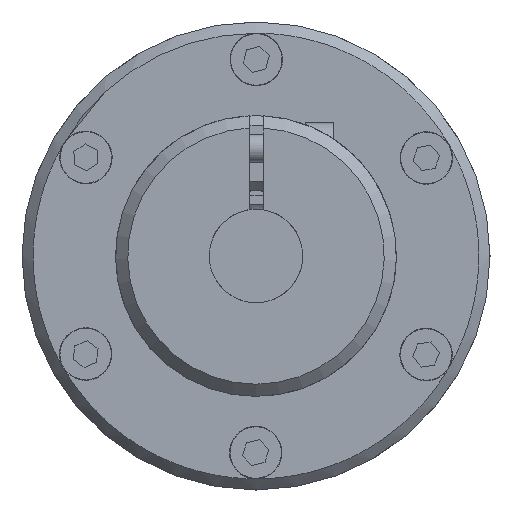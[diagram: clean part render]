
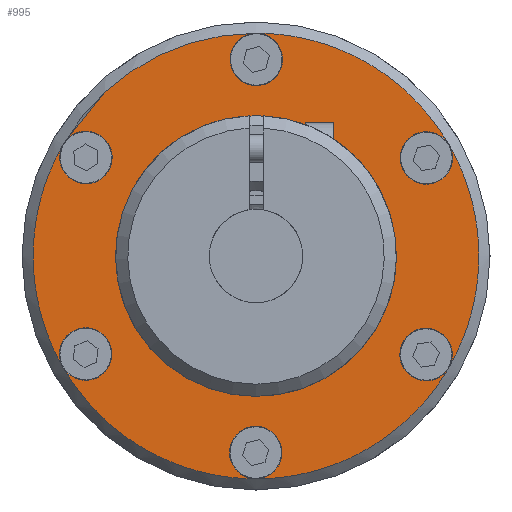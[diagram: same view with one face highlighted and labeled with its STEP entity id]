
A CAD part, left-side view. The second image highlights one B-rep face of the part: STEP entity #995.
In plain terms, the highlighted planar face has unit normal (-1, 0, 0).
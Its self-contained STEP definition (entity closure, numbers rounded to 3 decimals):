
#995 = ADVANCED_FACE( '', ( #1838, #1839 ), #1840, .F. );
#1838 = FACE_OUTER_BOUND( '', #2639, .T. );
#1839 = FACE_BOUND( '', #2640, .T. );
#1840 = PLANE( '', #2641 );
#2639 = EDGE_LOOP( '', ( #3853, #3854, #3855, #3856, #3857, #3858, #3859, #3860, #3861, #3862, #3863, #3864 ) );
#2640 = EDGE_LOOP( '', ( #3865, #3866, #3867, #3868, #3869, #3870, #3871, #3872 ) );
#2641 = AXIS2_PLACEMENT_3D( '', #3873, #3874, #3875 );
#3853 = ORIENTED_EDGE( '', *, *, #5362, .T. );
#3854 = ORIENTED_EDGE( '', *, *, #5353, .T. );
#3855 = ORIENTED_EDGE( '', *, *, #5363, .T. );
#3856 = ORIENTED_EDGE( '', *, *, #5343, .T. );
#3857 = ORIENTED_EDGE( '', *, *, #5364, .T. );
#3858 = ORIENTED_EDGE( '', *, *, #5365, .T. );
#3859 = ORIENTED_EDGE( '', *, *, #5366, .T. );
#3860 = ORIENTED_EDGE( '', *, *, #5367, .T. );
#3861 = ORIENTED_EDGE( '', *, *, #5368, .T. );
#3862 = ORIENTED_EDGE( '', *, *, #5369, .T. );
#3863 = ORIENTED_EDGE( '', *, *, #5370, .T. );
#3864 = ORIENTED_EDGE( '', *, *, #5333, .T. );
#3865 = ORIENTED_EDGE( '', *, *, #5342, .F. );
#3866 = ORIENTED_EDGE( '', *, *, #5339, .F. );
#3867 = ORIENTED_EDGE( '', *, *, #5312, .F. );
#3868 = ORIENTED_EDGE( '', *, *, #5371, .F. );
#3869 = ORIENTED_EDGE( '', *, *, #5372, .F. );
#3870 = ORIENTED_EDGE( '', *, *, #5361, .F. );
#3871 = ORIENTED_EDGE( '', *, *, #5308, .F. );
#3872 = ORIENTED_EDGE( '', *, *, #5373, .F. );
#3873 = CARTESIAN_POINT( '', ( -10., 25., 0. ) );
#3874 = DIRECTION( '', ( 1., 0., 0. ) );
#3875 = DIRECTION( '', ( 0., 1., 0. ) );
#5308 = EDGE_CURVE( '', #6036, #6038, #6039, .F. );
#5312 = EDGE_CURVE( '', #6044, #6032, #6046, .F. );
#5333 = EDGE_CURVE( '', #6081, #6081, #6082, .T. );
#5339 = EDGE_CURVE( '', #6032, #6089, #6093, .T. );
#5342 = EDGE_CURVE( '', #6089, #6095, #6098, .F. );
#5343 = EDGE_CURVE( '', #6099, #6099, #6100, .T. );
#5353 = EDGE_CURVE( '', #6119, #6119, #6120, .T. );
#5361 = EDGE_CURVE( '', #6038, #6129, #6133, .T. );
#5362 = EDGE_CURVE( '', #6081, #6119, #6134, .F. );
#5363 = EDGE_CURVE( '', #6119, #6099, #6135, .F. );
#5364 = EDGE_CURVE( '', #6099, #6136, #6137, .F. );
#5365 = EDGE_CURVE( '', #6136, #6136, #6138, .T. );
#5366 = EDGE_CURVE( '', #6136, #6139, #6140, .F. );
#5367 = EDGE_CURVE( '', #6139, #6139, #6141, .T. );
#5368 = EDGE_CURVE( '', #6139, #6142, #6143, .F. );
#5369 = EDGE_CURVE( '', #6142, #6142, #6144, .T. );
#5370 = EDGE_CURVE( '', #6142, #6081, #6145, .F. );
#5371 = EDGE_CURVE( '', #6146, #6044, #6147, .T. );
#5372 = EDGE_CURVE( '', #6129, #6146, #6148, .F. );
#5373 = EDGE_CURVE( '', #6095, #6036, #6149, .T. );
#6032 = VERTEX_POINT( '', #6941 );
#6036 = VERTEX_POINT( '', #6946 );
#6038 = VERTEX_POINT( '', #6949 );
#6039 = CIRCLE( '', #6950, 7. );
#6044 = VERTEX_POINT( '', #6956 );
#6046 = CIRCLE( '', #6959, 7. );
#6081 = VERTEX_POINT( '', #6994 );
#6082 = CIRCLE( '', #6995, 2.8 );
#6089 = VERTEX_POINT( '', #7002 );
#6093 = CIRCLE( '', #7007, 16.5 );
#6095 = VERTEX_POINT( '', #7009 );
#6098 = CIRCLE( '', #7013, 15. );
#6099 = VERTEX_POINT( '', #7014 );
#6100 = CIRCLE( '', #7015, 2.8 );
#6119 = VERTEX_POINT( '', #7034 );
#6120 = CIRCLE( '', #7035, 2.8 );
#6129 = VERTEX_POINT( '', #7050 );
#6133 = CIRCLE( '', #7055, 16.5 );
#6134 = CIRCLE( '', #7056, 23.8 );
#6135 = CIRCLE( '', #7057, 23.8 );
#6136 = VERTEX_POINT( '', #7058 );
#6137 = CIRCLE( '', #7059, 23.8 );
#6138 = CIRCLE( '', #7060, 2.8 );
#6139 = VERTEX_POINT( '', #7061 );
#6140 = CIRCLE( '', #7062, 23.8 );
#6141 = CIRCLE( '', #7063, 2.8 );
#6142 = VERTEX_POINT( '', #7064 );
#6143 = CIRCLE( '', #7065, 23.8 );
#6144 = CIRCLE( '', #7066, 2.8 );
#6145 = CIRCLE( '', #7067, 23.8 );
#6146 = VERTEX_POINT( '', #7068 );
#6147 = CIRCLE( '', #7069, 16.5 );
#6148 = CIRCLE( '', #7070, 15. );
#6149 = CIRCLE( '', #7071, 16.5 );
#6941 = CARTESIAN_POINT( '', ( -10., 1.485, -6.841 ) );
#6946 = CARTESIAN_POINT( '', ( -10., -1.485, -6.841 ) );
#6949 = CARTESIAN_POINT( '', ( -10., -1.485, 6.841 ) );
#6950 = AXIS2_PLACEMENT_3D( '', #8108, #8109, #8110 );
#6956 = CARTESIAN_POINT( '', ( -10., 1.485, 6.841 ) );
#6959 = AXIS2_PLACEMENT_3D( '', #8116, #8117, #8118 );
#6994 = CARTESIAN_POINT( '', ( -10., 0., 23.8 ) );
#6995 = AXIS2_PLACEMENT_3D( '', #8179, #8180, #8181 );
#7002 = CARTESIAN_POINT( '', ( -10., 6.818, -13.361 ) );
#7007 = AXIS2_PLACEMENT_3D( '', #8195, #8196, #8197 );
#7009 = CARTESIAN_POINT( '', ( -10., -6.818, -13.361 ) );
#7013 = AXIS2_PLACEMENT_3D( '', #8202, #8203, #8204 );
#7014 = CARTESIAN_POINT( '', ( -10., 20.611, -11.9 ) );
#7015 = AXIS2_PLACEMENT_3D( '', #8205, #8206, #8207 );
#7034 = CARTESIAN_POINT( '', ( -10., 20.611, 11.9 ) );
#7035 = AXIS2_PLACEMENT_3D( '', #8235, #8236, #8237 );
#7050 = CARTESIAN_POINT( '', ( -10., -6.818, 13.361 ) );
#7055 = AXIS2_PLACEMENT_3D( '', #8251, #8252, #8253 );
#7056 = AXIS2_PLACEMENT_3D( '', #8254, #8255, #8256 );
#7057 = AXIS2_PLACEMENT_3D( '', #8257, #8258, #8259 );
#7058 = CARTESIAN_POINT( '', ( -10., 0., -23.8 ) );
#7059 = AXIS2_PLACEMENT_3D( '', #8260, #8261, #8262 );
#7060 = AXIS2_PLACEMENT_3D( '', #8263, #8264, #8265 );
#7061 = CARTESIAN_POINT( '', ( -10., -20.611, -11.9 ) );
#7062 = AXIS2_PLACEMENT_3D( '', #8266, #8267, #8268 );
#7063 = AXIS2_PLACEMENT_3D( '', #8269, #8270, #8271 );
#7064 = CARTESIAN_POINT( '', ( -10., -20.611, 11.9 ) );
#7065 = AXIS2_PLACEMENT_3D( '', #8272, #8273, #8274 );
#7066 = AXIS2_PLACEMENT_3D( '', #8275, #8276, #8277 );
#7067 = AXIS2_PLACEMENT_3D( '', #8278, #8279, #8280 );
#7068 = CARTESIAN_POINT( '', ( -10., 6.818, 13.361 ) );
#7069 = AXIS2_PLACEMENT_3D( '', #8281, #8282, #8283 );
#7070 = AXIS2_PLACEMENT_3D( '', #8284, #8285, #8286 );
#7071 = AXIS2_PLACEMENT_3D( '', #8287, #8288, #8289 );
#8108 = CARTESIAN_POINT( '', ( -10., 0., 0. ) );
#8109 = DIRECTION( '', ( 1., 0., 0. ) );
#8110 = DIRECTION( '', ( 0., 0., -1. ) );
#8116 = CARTESIAN_POINT( '', ( -10., 0., 0. ) );
#8117 = DIRECTION( '', ( 1., 0., 0. ) );
#8118 = DIRECTION( '', ( 0., 0., -1. ) );
#8179 = CARTESIAN_POINT( '', ( -10., 0., 21. ) );
#8180 = DIRECTION( '', ( 1., 0., 0. ) );
#8181 = DIRECTION( '', ( 0., 0., -1. ) );
#8195 = CARTESIAN_POINT( '', ( -10., 16.5, 0. ) );
#8196 = DIRECTION( '', ( 1., 0., 0. ) );
#8197 = DIRECTION( '', ( 0., 0., -1. ) );
#8202 = CARTESIAN_POINT( '', ( -10., 0., 0. ) );
#8203 = DIRECTION( '', ( 1., 0., 0. ) );
#8204 = DIRECTION( '', ( 0., 0., -1. ) );
#8205 = CARTESIAN_POINT( '', ( -10., 18.187, -10.5 ) );
#8206 = DIRECTION( '', ( 1., 0., 0. ) );
#8207 = DIRECTION( '', ( 0., 0., -1. ) );
#8235 = CARTESIAN_POINT( '', ( -10., 18.187, 10.5 ) );
#8236 = DIRECTION( '', ( 1., 0., 0. ) );
#8237 = DIRECTION( '', ( 0., 0., -1. ) );
#8251 = CARTESIAN_POINT( '', ( -10., -16.5, 0. ) );
#8252 = DIRECTION( '', ( 1., 0., 0. ) );
#8253 = DIRECTION( '', ( 0., 0., -1. ) );
#8254 = CARTESIAN_POINT( '', ( -10., 0., 0. ) );
#8255 = DIRECTION( '', ( 1., 0., 0. ) );
#8256 = DIRECTION( '', ( 0., 0., -1. ) );
#8257 = CARTESIAN_POINT( '', ( -10., 0., 0. ) );
#8258 = DIRECTION( '', ( 1., 0., 0. ) );
#8259 = DIRECTION( '', ( 0., 0., -1. ) );
#8260 = CARTESIAN_POINT( '', ( -10., 0., 0. ) );
#8261 = DIRECTION( '', ( 1., 0., 0. ) );
#8262 = DIRECTION( '', ( 0., 0., -1. ) );
#8263 = CARTESIAN_POINT( '', ( -10., 0., -21. ) );
#8264 = DIRECTION( '', ( 1., 0., 0. ) );
#8265 = DIRECTION( '', ( 0., 0., -1. ) );
#8266 = CARTESIAN_POINT( '', ( -10., 0., 0. ) );
#8267 = DIRECTION( '', ( 1., 0., 0. ) );
#8268 = DIRECTION( '', ( 0., 0., -1. ) );
#8269 = CARTESIAN_POINT( '', ( -10., -18.187, -10.5 ) );
#8270 = DIRECTION( '', ( 1., 0., 0. ) );
#8271 = DIRECTION( '', ( 0., 0., -1. ) );
#8272 = CARTESIAN_POINT( '', ( -10., 0., 0. ) );
#8273 = DIRECTION( '', ( 1., 0., 0. ) );
#8274 = DIRECTION( '', ( 0., 0., -1. ) );
#8275 = CARTESIAN_POINT( '', ( -10., -18.187, 10.5 ) );
#8276 = DIRECTION( '', ( 1., 0., 0. ) );
#8277 = DIRECTION( '', ( 0., 0., -1. ) );
#8278 = CARTESIAN_POINT( '', ( -10., 0., 0. ) );
#8279 = DIRECTION( '', ( 1., 0., 0. ) );
#8280 = DIRECTION( '', ( 0., 0., -1. ) );
#8281 = CARTESIAN_POINT( '', ( -10., 16.5, 0. ) );
#8282 = DIRECTION( '', ( 1., 0., 0. ) );
#8283 = DIRECTION( '', ( 0., 0., -1. ) );
#8284 = CARTESIAN_POINT( '', ( -10., 0., 0. ) );
#8285 = DIRECTION( '', ( 1., 0., 0. ) );
#8286 = DIRECTION( '', ( 0., 0., -1. ) );
#8287 = CARTESIAN_POINT( '', ( -10., -16.5, 0. ) );
#8288 = DIRECTION( '', ( 1., 0., 0. ) );
#8289 = DIRECTION( '', ( 0., 0., -1. ) );
